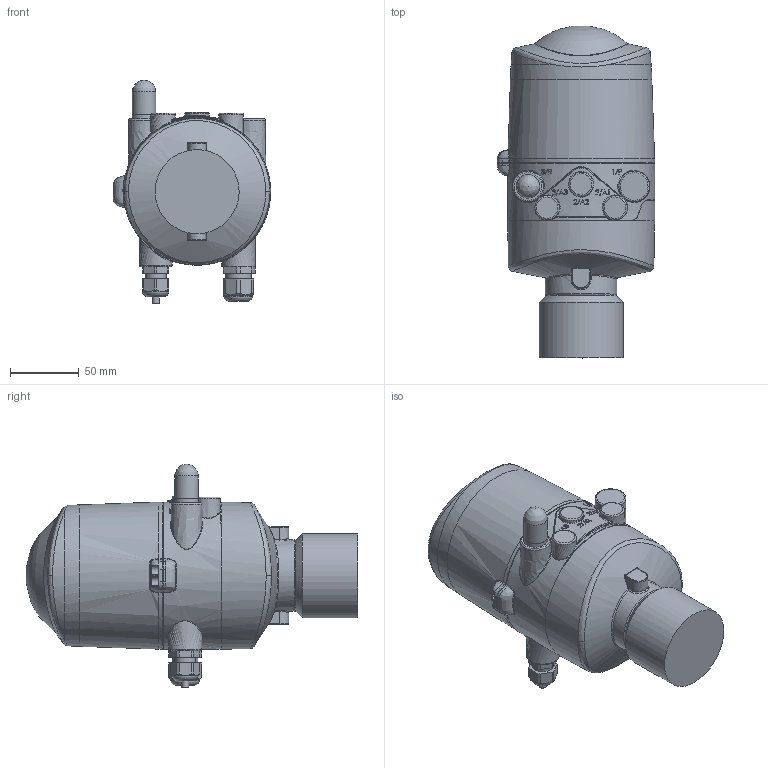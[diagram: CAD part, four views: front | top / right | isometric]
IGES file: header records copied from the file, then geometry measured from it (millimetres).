
Global section: file name: 8681 - maintainable - filled; native system: Autodesk Inventor 2020; preprocessor: unknown; author: FA67NH; date: 20210426.081352; units: inch
Bounding box: 114.12 x 240.8 x 162.2 mm (x, y, z)
Volume: 1643498.5 mm3; surface area: 90229.8 mm2
Topology: 1 solids, 1 shells, 456 faces, 1186 edges, 757 vertices
Faces by surface type: bspline 456
